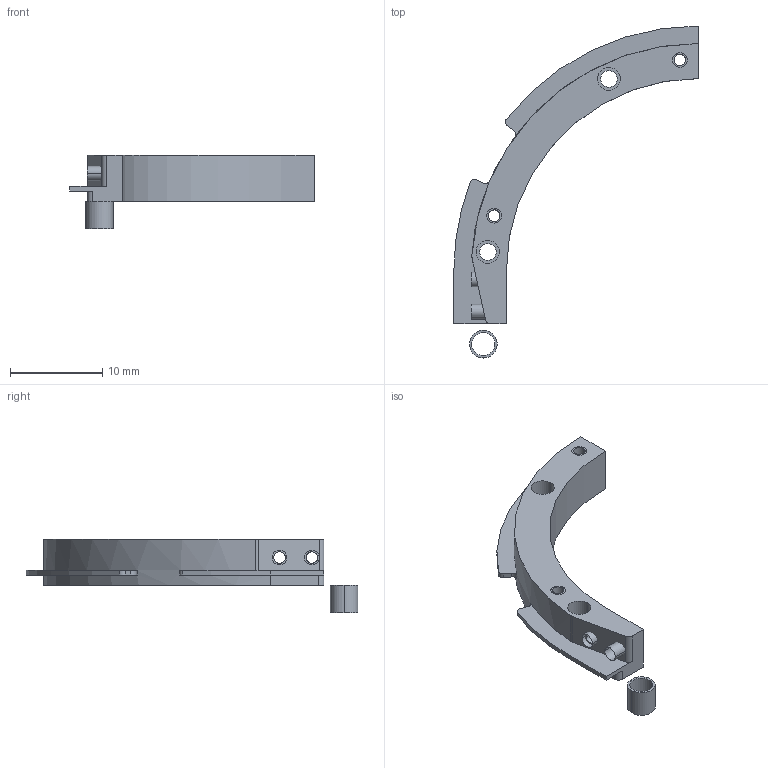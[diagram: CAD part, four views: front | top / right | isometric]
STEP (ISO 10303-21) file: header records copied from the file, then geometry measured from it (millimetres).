
FILE_DESCRIPTION((''),'2;1');
FILE_NAME('ANNTENA_JIGU_A_2','2020-03-13T',('g0715'),(''),'PRO/ENGINEER BY PARAMETRIC TECHNOLOGY CORPORATION, 2014090','PRO/ENGINEER BY PARAMETRIC TECHNOLOGY CORPORATION, 2014090','');
FILE_SCHEMA(('CONFIG_CONTROL_DESIGN'));
Length unit declared in the file: millimetre
Products named in the file (1): ANNTENA_JIGU_A_2
Bounding box: 26.5 x 36 x 8 mm (x, y, z)
Volume: 747.6 mm3; surface area: 1118.4 mm2
Topology: 1 solids, 6 shells, 59 faces, 160 edges, 110 vertices
Faces by surface type: cylinder 38, plane 21
Entity records: 2004 total; most frequent: CARTESIAN_POINT 366, DIRECTION 362, ORIENTED_EDGE 300, EDGE_CURVE 160, AXIS2_PLACEMENT_3D 146, VERTEX_POINT 110, CIRCLE 86, EDGE_LOOP 78
